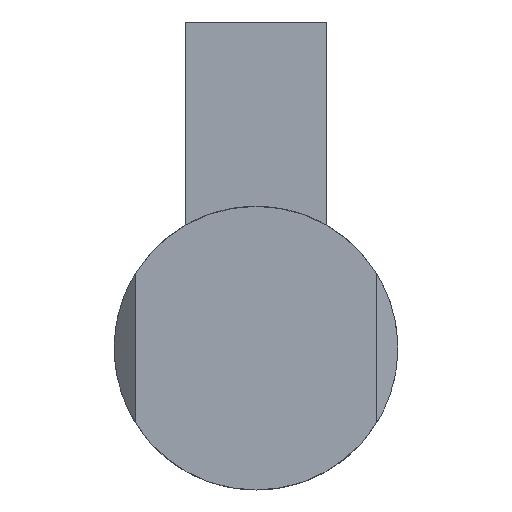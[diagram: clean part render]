
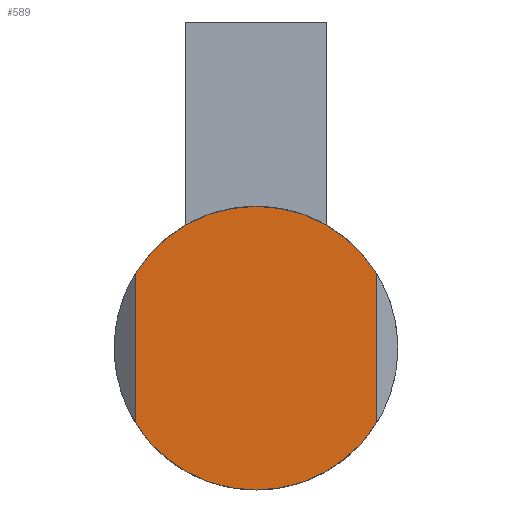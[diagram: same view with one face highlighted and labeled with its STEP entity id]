
A CAD part, front view. The second image highlights one B-rep face of the part: STEP entity #589.
In plain terms, the highlighted planar face has unit normal (0, -1, 0).
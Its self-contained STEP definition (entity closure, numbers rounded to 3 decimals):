
#8 = DIRECTION ( 'NONE',  ( 0., 0., 1. ) ) ;
#15 = CARTESIAN_POINT ( 'NONE',  ( -8.5, -7.85, -5.268 ) ) ;
#25 = DIRECTION ( 'NONE',  ( 0., 1., 0. ) ) ;
#38 = FACE_OUTER_BOUND ( 'NONE', #627, .T. ) ;
#58 = CIRCLE ( 'NONE', #471, 10. ) ;
#75 = DIRECTION ( 'NONE',  ( 0., 0., -1. ) ) ;
#76 = VECTOR ( 'NONE', #75, 1000. ) ;
#78 = LINE ( 'NONE', #134, #76 ) ;
#83 = DIRECTION ( 'NONE',  ( 0., 1., 0. ) ) ;
#112 = CIRCLE ( 'NONE', #629, 10. ) ;
#134 = CARTESIAN_POINT ( 'NONE',  ( -8.5, -7.85, 0. ) ) ;
#137 = AXIS2_PLACEMENT_3D ( 'NONE', #390, #25, #438 ) ;
#140 = CIRCLE ( 'NONE', #683, 10. ) ;
#150 = EDGE_CURVE ( 'NONE', #242, #583, #170, .T. ) ;
#170 = CIRCLE ( 'NONE', #695, 10. ) ;
#207 = CARTESIAN_POINT ( 'NONE',  ( 8.5, -7.85, 5.268 ) ) ;
#223 = ORIENTED_EDGE ( 'NONE', *, *, #238, .F. ) ;
#238 = EDGE_CURVE ( 'NONE', #481, #397, #140, .T. ) ;
#239 = CARTESIAN_POINT ( 'NONE',  ( 8.5, -7.85, -5.268 ) ) ;
#242 = VERTEX_POINT ( 'NONE', #624 ) ;
#260 = PLANE ( 'NONE',  #137 ) ;
#283 = DIRECTION ( 'NONE',  ( 0., 0., 1. ) ) ;
#284 = CARTESIAN_POINT ( 'NONE',  ( 0., -7.85, 0. ) ) ;
#322 = EDGE_CURVE ( 'NONE', #486, #481, #112, .T. ) ;
#338 = ORIENTED_EDGE ( 'NONE', *, *, #150, .F. ) ;
#343 = ORIENTED_EDGE ( 'NONE', *, *, #482, .F. ) ;
#364 = DIRECTION ( 'NONE',  ( 0., 1., 0. ) ) ;
#370 = ORIENTED_EDGE ( 'NONE', *, *, #416, .T. ) ;
#371 = ORIENTED_EDGE ( 'NONE', *, *, #322, .F. ) ;
#382 = CARTESIAN_POINT ( 'NONE',  ( 0., -7.85, 0. ) ) ;
#390 = CARTESIAN_POINT ( 'NONE',  ( 0., -7.85, 0. ) ) ;
#397 = VERTEX_POINT ( 'NONE', #15 ) ;
#416 = EDGE_CURVE ( 'NONE', #242, #397, #78, .T. ) ;
#438 = DIRECTION ( 'NONE',  ( 0., 0., 1. ) ) ;
#455 = DIRECTION ( 'NONE',  ( 0., 1., 0. ) ) ;
#471 = AXIS2_PLACEMENT_3D ( 'NONE', #677, #364, #8 ) ;
#481 = VERTEX_POINT ( 'NONE', #625 ) ;
#482 = EDGE_CURVE ( 'NONE', #583, #671, #58, .T. ) ;
#486 = VERTEX_POINT ( 'NONE', #239 ) ;
#523 = DIRECTION ( 'NONE',  ( 0., 0., 1. ) ) ;
#566 = DIRECTION ( 'NONE',  ( 0., 1., 0. ) ) ;
#569 = CARTESIAN_POINT ( 'NONE',  ( 0., -7.85, 0. ) ) ;
#577 = DIRECTION ( 'NONE',  ( 0., 0., 1. ) ) ;
#583 = VERTEX_POINT ( 'NONE', #602 ) ;
#589 = ADVANCED_FACE ( 'NONE', ( #38 ), #260, .F. ) ;
#602 = CARTESIAN_POINT ( 'NONE',  ( 0., -7.85, 10. ) ) ;
#612 = ORIENTED_EDGE ( 'NONE', *, *, #681, .T. ) ;
#624 = CARTESIAN_POINT ( 'NONE',  ( -8.5, -7.85, 5.268 ) ) ;
#625 = CARTESIAN_POINT ( 'NONE',  ( 0., -7.85, -10. ) ) ;
#627 = EDGE_LOOP ( 'NONE', ( #338, #370, #223, #371, #612, #343 ) ) ;
#629 = AXIS2_PLACEMENT_3D ( 'NONE', #382, #83, #663 ) ;
#662 = CARTESIAN_POINT ( 'NONE',  ( 8.5, -7.85, 0. ) ) ;
#663 = DIRECTION ( 'NONE',  ( 0., 0., 1. ) ) ;
#671 = VERTEX_POINT ( 'NONE', #207 ) ;
#677 = CARTESIAN_POINT ( 'NONE',  ( 0., -7.85, 0. ) ) ;
#681 = EDGE_CURVE ( 'NONE', #486, #671, #696, .T. ) ;
#683 = AXIS2_PLACEMENT_3D ( 'NONE', #569, #566, #523 ) ;
#685 = VECTOR ( 'NONE', #283, 1000. ) ;
#695 = AXIS2_PLACEMENT_3D ( 'NONE', #284, #455, #577 ) ;
#696 = LINE ( 'NONE', #662, #685 ) ;
